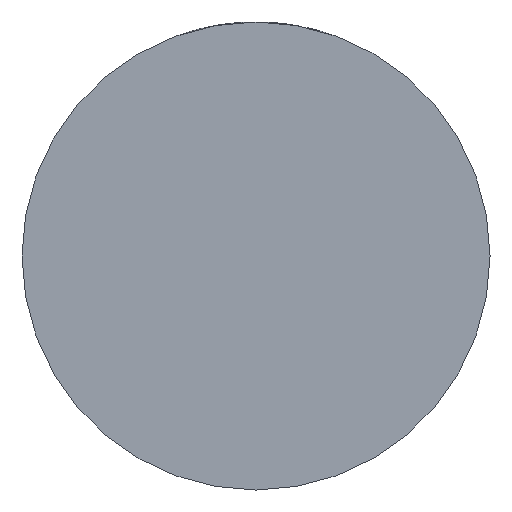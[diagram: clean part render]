
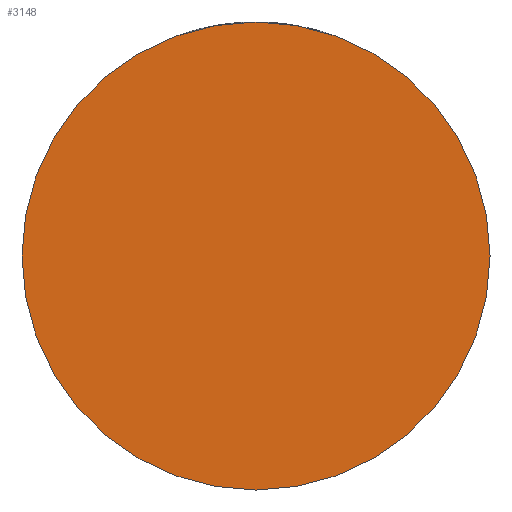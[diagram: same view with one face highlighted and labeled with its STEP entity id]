
A CAD part, front view. The second image highlights one B-rep face of the part: STEP entity #3148.
In plain terms, the highlighted planar face has unit normal (0, -1, 0).
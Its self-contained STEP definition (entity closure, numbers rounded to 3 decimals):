
#37 = VERTEX_POINT ( 'NONE', #1376 ) ;
#191 = VERTEX_POINT ( 'NONE', #2138 ) ;
#493 = DIRECTION ( 'NONE',  ( 1., 0., 0. ) ) ;
#505 = CARTESIAN_POINT ( 'NONE',  ( 0., -26., 0. ) ) ;
#515 = DIRECTION ( 'NONE',  ( 0., -1., 0. ) ) ;
#534 = FACE_OUTER_BOUND ( 'NONE', #4277, .T. ) ;
#648 = CIRCLE ( 'NONE', #2150, 32.5 ) ;
#650 = DIRECTION ( 'NONE',  ( 1., 0., 0. ) ) ;
#870 = ORIENTED_EDGE ( 'NONE', *, *, #3650, .T. ) ;
#905 = PLANE ( 'NONE',  #1997 ) ;
#1376 = CARTESIAN_POINT ( 'NONE',  ( 32.5, -26., 0. ) ) ;
#1997 = AXIS2_PLACEMENT_3D ( 'NONE', #2852, #515, #493 ) ;
#2138 = CARTESIAN_POINT ( 'NONE',  ( -32.5, -26., 0. ) ) ;
#2150 = AXIS2_PLACEMENT_3D ( 'NONE', #2619, #3046, #650 ) ;
#2210 = EDGE_CURVE ( 'NONE', #191, #37, #2644, .T. ) ;
#2231 = DIRECTION ( 'NONE',  ( 1., 0., 0. ) ) ;
#2619 = CARTESIAN_POINT ( 'NONE',  ( 0., -26., 0. ) ) ;
#2644 = CIRCLE ( 'NONE', #3427, 32.5 ) ;
#2852 = CARTESIAN_POINT ( 'NONE',  ( 0., -26., 0. ) ) ;
#3046 = DIRECTION ( 'NONE',  ( 0., -1., 0. ) ) ;
#3141 = ORIENTED_EDGE ( 'NONE', *, *, #2210, .T. ) ;
#3148 = ADVANCED_FACE ( 'NONE', ( #534 ), #905, .T. ) ;
#3427 = AXIS2_PLACEMENT_3D ( 'NONE', #505, #3924, #2231 ) ;
#3650 = EDGE_CURVE ( 'NONE', #37, #191, #648, .T. ) ;
#3924 = DIRECTION ( 'NONE',  ( 0., -1., 0. ) ) ;
#4277 = EDGE_LOOP ( 'NONE', ( #3141, #870 ) ) ;
